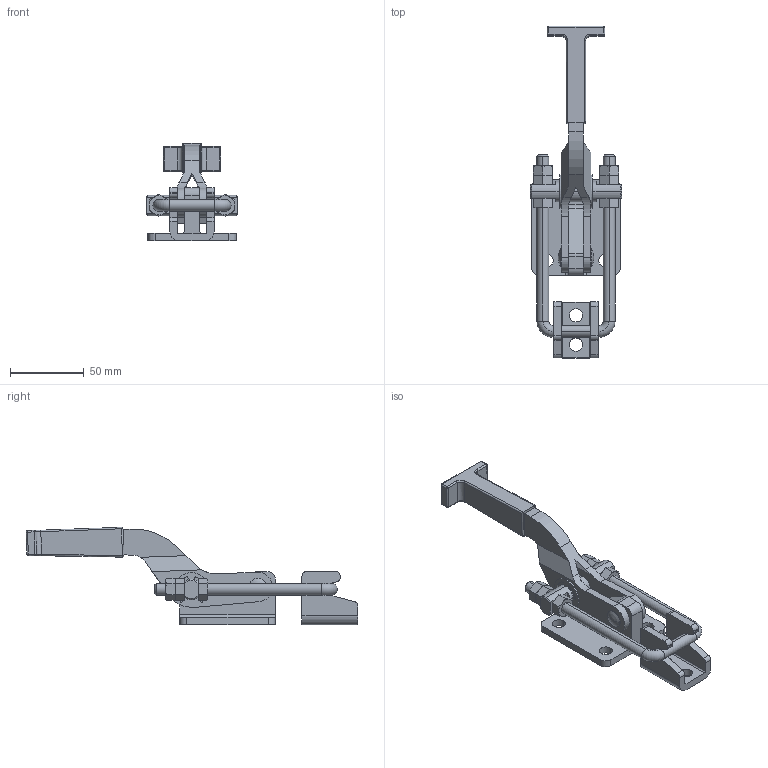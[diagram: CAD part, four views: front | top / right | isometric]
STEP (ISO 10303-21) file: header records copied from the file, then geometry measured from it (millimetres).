
FILE_DESCRIPTION(('CATIA V5 STEP Exchange'),'2;1');
FILE_NAME('D:\Model\toggle\toggle_standard\KJF_070_41F.stp','2005-06-24T03:19:24+00:00',('none'),('none'),'CATIA Version 5 Release 11 (IN-9)','CATIA V5 STEP AP203',' none');
FILE_SCHEMA(('CONFIG_CONTROL_DESIGN'));
Length unit declared in the file: millimetre
Products named in the file (1): Part1
Bounding box: 62 x 225.25 x 66.17 mm (x, y, z)
Volume: 113537.1 mm3; surface area: 52126.5 mm2
Topology: 15 solids, 15 shells, 362 faces, 923 edges, 584 vertices
Faces by surface type: cylinder 147, plane 141, cone 52, bspline 14, torus 4, sphere 4
Entity records: 11481 total; most frequent: CARTESIAN_POINT 3468, ORIENTED_EDGE 1818, DIRECTION 1265, EDGE_CURVE 909, AXIS2_PLACEMENT_3D 608, VERTEX_POINT 584, EDGE_LOOP 405, VECTOR 401
